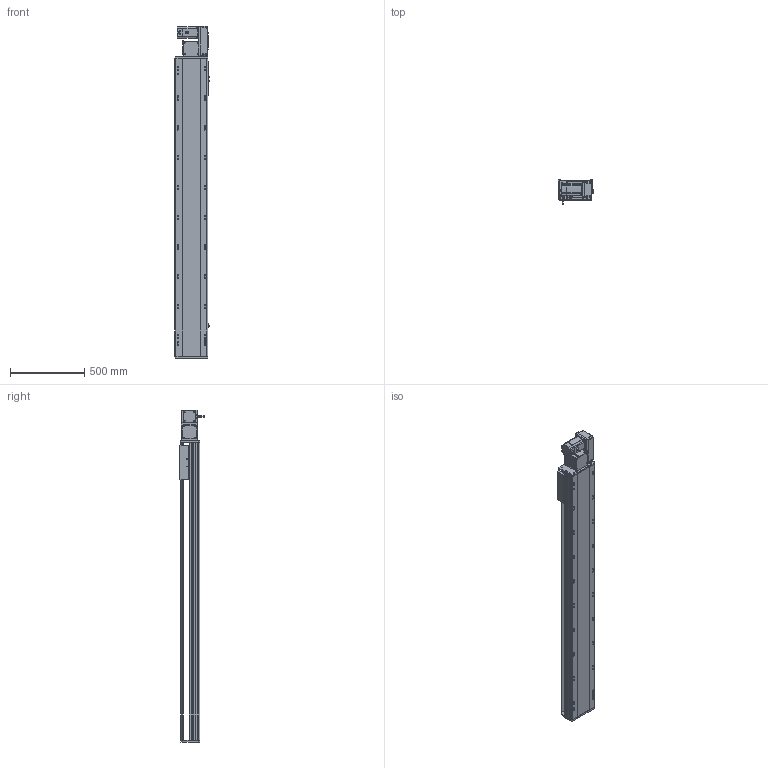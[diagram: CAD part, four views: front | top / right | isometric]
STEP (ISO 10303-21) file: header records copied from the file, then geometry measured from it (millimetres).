
FILE_DESCRIPTION (( 'STEP AP214' ), '1' );
FILE_NAME ('RTB22S-XX-1650-R-M75-C4.STEP', '2025-12-12T07:23:14', ( '' ), ( '' ), 'SwSTEP 2.0', 'SolidWorks 2018', '' );
FILE_SCHEMA (( 'AUTOMOTIVE_DESIGN' ));
Length unit declared in the file: millimetre
Products named in the file (14): RTB22S-GY-014--々湍釱^RTB22S-R-々湍釱蚾饜_RTB22S-XX-XX-R-M75-C4; 750W萇儂^RTB22S-XX-XX-R-M75-C4; RTB22S-XX-1650-R-M75-C4; RTB22S-R-々湍釱蚾饜^RTB22S-XX-XX-R-M75-C4; RTB22S-L-011菁釱^RTB22S-XX-XX-R-M75-C4; RTB22S-GY-017P^RTB22S-R-々湍釱蚾饜_RTB22S-XX-XX-R-M75-C4; RTB22S-GY-007奻裔^RTB22S-XX-XX-R-M75-C4; RTH22-GY-013外置感应片^RTB22S-XX-XX-R-M75-C4; RTB22S-GY-005P^RTB22S-R-々湍釱蚾饜_RTB22S-XX-XX-R-M75-C4; RTB22S-GY-008-M75--萇儂啣^RTB22S-R-々湍釱蚾饜_RTB22S-XX-XX-R-M75-C4; OMRON EE-SX672 传感器^RTB22S-XX-XX-R-M75-C4; RTB22S-GY-001耜裔^RTB22S-XX-XX-R-M75-C4; RTB22S-L-004賑釱^RTB22S-XX-XX-R-M75-C4; RTB22S-GY-018P^RTB22S-R-々湍釱蚾饜_RTB22S-XX-XX-R-M75-C4
Assembly tree (16 placements, depth 3):
  RTB22S-XX-1650-R-M75-C4
    RTB22S-L-011菁釱^RTB22S-XX-XX-R-M75-C4
    RTB22S-GY-001耜裔^RTB22S-XX-XX-R-M75-C4
    750W萇儂^RTB22S-XX-XX-R-M75-C4
    RTB22S-GY-007奻裔^RTB22S-XX-XX-R-M75-C4
    RTB22S-L-004賑釱^RTB22S-XX-XX-R-M75-C4
    RTH22-GY-013外置感应片^RTB22S-XX-XX-R-M75-C4
    OMRON EE-SX672 传感器^RTB22S-XX-XX-R-M75-C4  x3
    RTB22S-R-々湍釱蚾饜^RTB22S-XX-XX-R-M75-C4
      RTB22S-GY-014--々湍釱^RTB22S-R-々湍釱蚾饜_RTB22S-XX-XX-R-M75-C4
      RTB22S-GY-017P^RTB22S-R-々湍釱蚾饜_RTB22S-XX-XX-R-M75-C4  x2
      RTB22S-GY-005P^RTB22S-R-々湍釱蚾饜_RTB22S-XX-XX-R-M75-C4
      RTB22S-GY-008-M75--萇儂啣^RTB22S-R-々湍釱蚾饜_RTB22S-XX-XX-R-M75-C4
      RTB22S-GY-018P^RTB22S-R-々湍釱蚾饜_RTB22S-XX-XX-R-M75-C4
Bounding box: 238.5 x 162.7 x 2229 mm (x, y, z)
Volume: 28857731.8 mm3; surface area: 2974788.9 mm2
Topology: 15 solids, 15 shells, 2037 faces, 5536 edges, 3542 vertices
Faces by surface type: plane 921, cylinder 658, bspline 296, cone 150, sphere 8, torus 4
Entity records: 54742 total; most frequent: CARTESIAN_POINT 15616, ORIENTED_EDGE 7836, DIRECTION 7592, EDGE_CURVE 3918, AXIS2_PLACEMENT_3D 2698, VERTEX_POINT 2546, LINE 2196, VECTOR 2196
